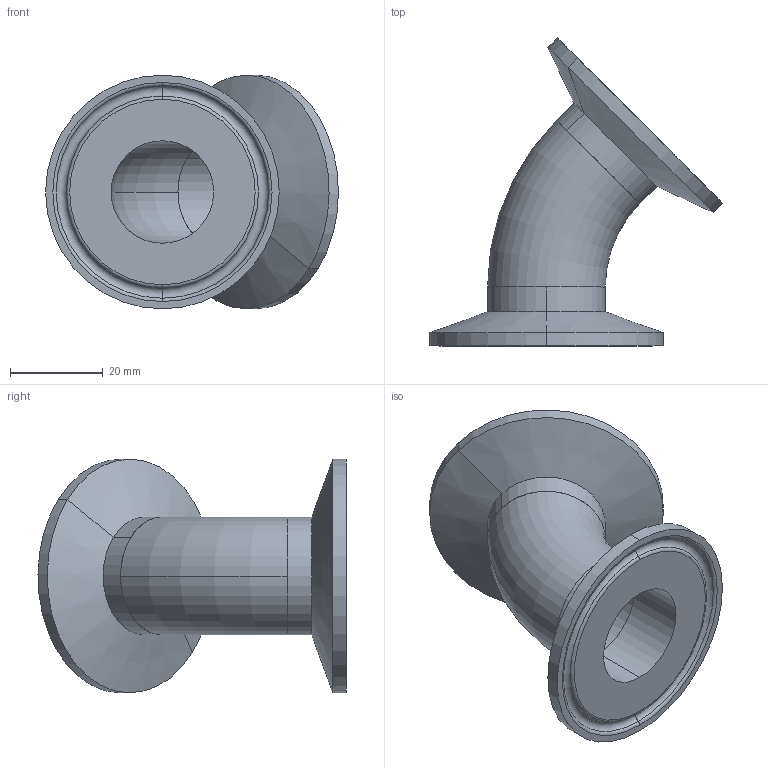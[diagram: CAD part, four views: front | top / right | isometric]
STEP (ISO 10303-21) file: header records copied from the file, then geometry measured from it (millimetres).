
FILE_DESCRIPTION (( 'STEP AP203' ), '1' );
FILE_NAME ('EG2K1.0.STEP', '2018-05-11T13:08:13', ( 'vneprd' ), ( 'Microsoft' ), 'SwSTEP 2.0', 'SolidWorks 2014', '' );
FILE_SCHEMA (( 'CONFIG_CONTROL_DESIGN' ));
Length unit declared in the file: inch
Products named in the file (3): E2WK1.0; EG2CS1.0; EG2K1.0
Assembly tree (3 placements, depth 2):
  EG2K1.0
    E2WK1.0
    EG2CS1.0  x2
Bounding box: 63.15 x 66.44 x 50.39 mm (x, y, z)
Volume: 20654.3 mm3; surface area: 15123.1 mm2
Topology: 3 solids, 3 shells, 40 faces, 80 edges, 48 vertices
Faces by surface type: torus 16, cylinder 12, plane 8, cone 4
Entity records: 965 total; most frequent: DIRECTION 142, CARTESIAN_POINT 103, ORIENTED_EDGE 92, AXIS2_PLACEMENT_3D 67, EDGE_CURVE 46, CIRCLE 38, EDGE_LOOP 28, VERTEX_POINT 28
